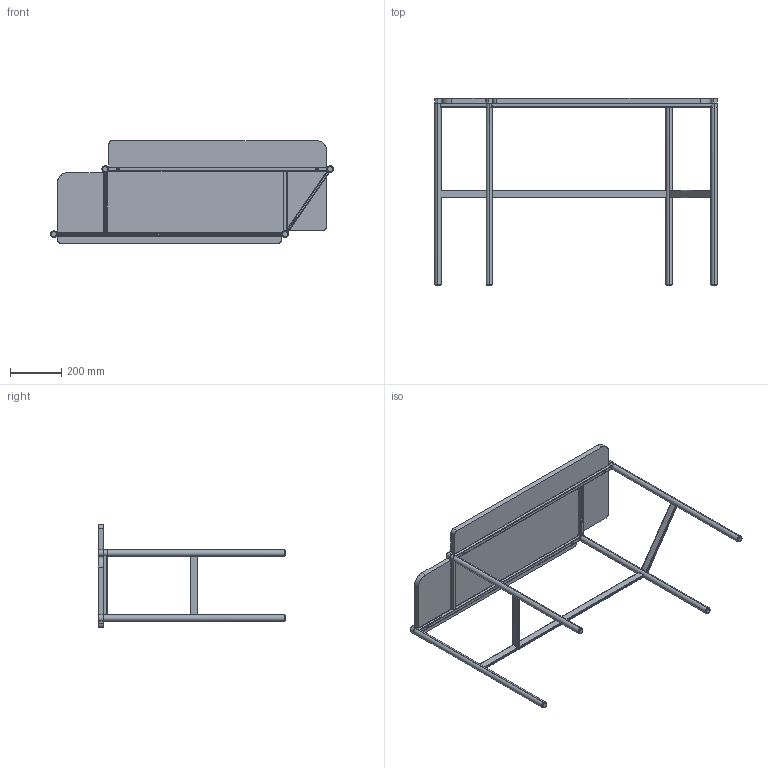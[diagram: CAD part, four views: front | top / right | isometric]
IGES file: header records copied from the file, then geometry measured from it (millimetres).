
Start section: SolidWorks IGES file using analytic representation for surfaces
Global section: file name: C:\Users\aiza\Desktop\Arita consolle_FG52002_3D\FG52002_WOOD SHELF.igs; native system: Rhinoceros ( Mar  9 2011 ); preprocessor: Trout Lake IGES 012 Mar  9 2011; date: 200929.101730; units: millimetre
Bounding box: 1100.5 x 730 x 400 mm (x, y, z)
Surface area: 1680107.3 mm2 (no closed solid volume)
Topology: 0 solids, 0 shells, 243 faces, 3881 edges, 3881 vertices
Faces by surface type: bspline 243
